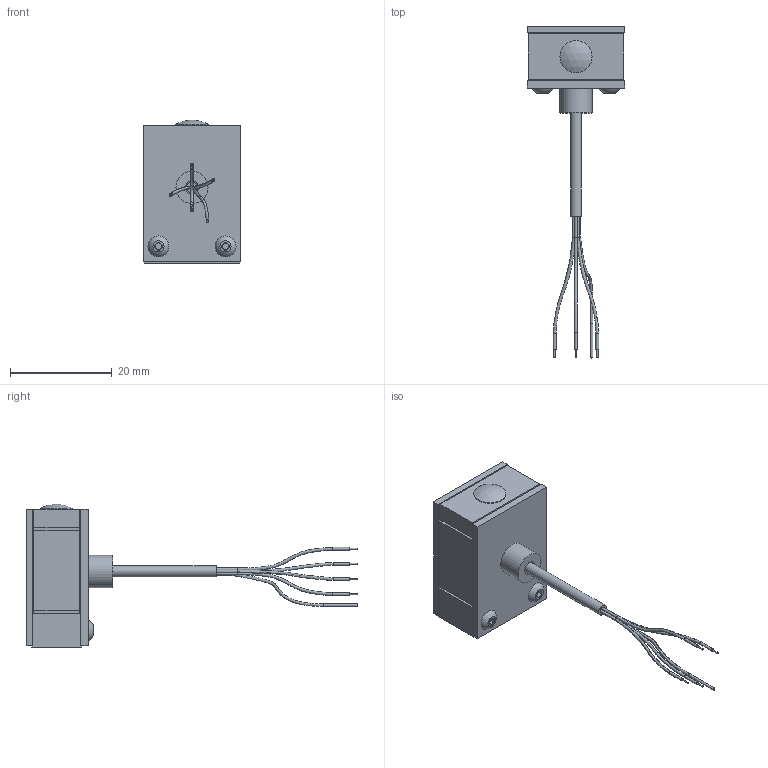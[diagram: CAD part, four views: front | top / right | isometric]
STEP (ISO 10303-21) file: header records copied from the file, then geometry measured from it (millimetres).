
FILE_DESCRIPTION (( 'STEP AP203' ), '1' );
FILE_NAME ('Part5^80267.STEP', '2017-02-22T14:05:26', ( '' ), ( '' ), 'SwSTEP 2.0', 'SolidWorks 2016', '' );
FILE_SCHEMA (( 'CONFIG_CONTROL_DESIGN' ));
Length unit declared in the file: inch
Products named in the file (1): Part5^80267
Bounding box: 19.3 x 65.38 x 28.31 mm (x, y, z)
Volume: 6355.8 mm3; surface area: 4479.1 mm2
Topology: 1 solids, 3 shells, 177 faces, 426 edges, 281 vertices
Faces by surface type: plane 105, cone 32, cylinder 26, bspline 11, sphere 3
Full cylindrical faces by diameter (mm): 0.254 x4, 0.508 x2, 0.559 x8, 2.159 x2, 2.413 x2, 2.692 x1, 2.921 x2, 5.461 x1, 6.35 x2
Entity records: 7808 total; most frequent: CARTESIAN_POINT 3945, ORIENTED_EDGE 756, DIRECTION 722, EDGE_CURVE 378, VERTEX_POINT 266, AXIS2_PLACEMENT_3D 265, EDGE_LOOP 244, FACE_OUTER_BOUND 208
